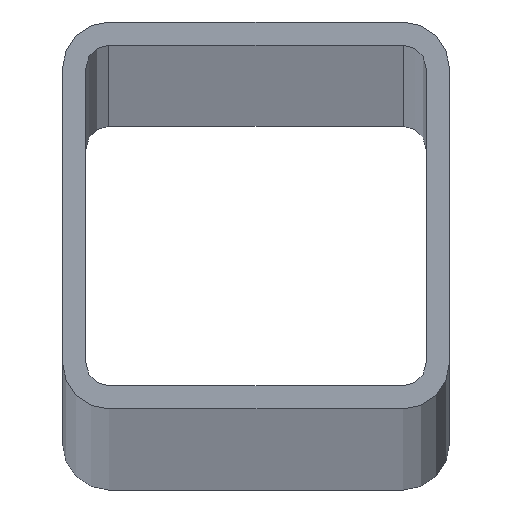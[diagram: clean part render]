
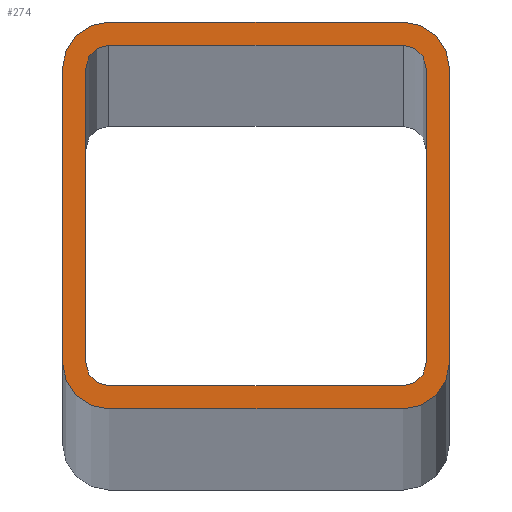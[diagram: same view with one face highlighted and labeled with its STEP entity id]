
A CAD part, top view. The second image highlights one B-rep face of the part: STEP entity #274.
In plain terms, the highlighted planar face has unit normal (0, 0, 1).
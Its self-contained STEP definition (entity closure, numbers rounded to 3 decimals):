
#4 = CIRCLE ( 'NONE', #85, 1.5 ) ;
#7 = DIRECTION ( 'NONE',  ( -1., 0., 0. ) ) ;
#17 = EDGE_CURVE ( 'NONE', #473, #395, #319, .T. ) ;
#18 = CARTESIAN_POINT ( 'NONE',  ( -9.5, 11., 3000. ) ) ;
#22 = VERTEX_POINT ( 'NONE', #265 ) ;
#24 = ORIENTED_EDGE ( 'NONE', *, *, #216, .T. ) ;
#25 = AXIS2_PLACEMENT_3D ( 'NONE', #158, #429, #580 ) ;
#28 = EDGE_CURVE ( 'NONE', #440, #295, #496, .T. ) ;
#29 = CARTESIAN_POINT ( 'NONE',  ( 9.5, -12.5, 3000. ) ) ;
#41 = CARTESIAN_POINT ( 'NONE',  ( 9.5, -9.5, 3000. ) ) ;
#53 = DIRECTION ( 'NONE',  ( 1., 0., 0. ) ) ;
#54 = EDGE_CURVE ( 'NONE', #581, #104, #547, .T. ) ;
#62 = CARTESIAN_POINT ( 'NONE',  ( -9.5, -9.5, 3000. ) ) ;
#63 = VERTEX_POINT ( 'NONE', #277 ) ;
#65 = LINE ( 'NONE', #69, #309 ) ;
#66 = ORIENTED_EDGE ( 'NONE', *, *, #28, .F. ) ;
#67 = AXIS2_PLACEMENT_3D ( 'NONE', #610, #241, #414 ) ;
#69 = CARTESIAN_POINT ( 'NONE',  ( 12.5, -11., 3000. ) ) ;
#74 = CARTESIAN_POINT ( 'NONE',  ( -12.5, -9.5, 3000. ) ) ;
#76 = VERTEX_POINT ( 'NONE', #29 ) ;
#79 = ORIENTED_EDGE ( 'NONE', *, *, #291, .T. ) ;
#85 = AXIS2_PLACEMENT_3D ( 'NONE', #114, #208, #212 ) ;
#96 = VECTOR ( 'NONE', #7, 1000. ) ;
#103 = DIRECTION ( 'NONE',  ( 0., 1., 0. ) ) ;
#104 = VERTEX_POINT ( 'NONE', #275 ) ;
#111 = VERTEX_POINT ( 'NONE', #601 ) ;
#114 = CARTESIAN_POINT ( 'NONE',  ( 9.5, -9.5, 3000. ) ) ;
#115 = ORIENTED_EDGE ( 'NONE', *, *, #54, .T. ) ;
#120 = DIRECTION ( 'NONE',  ( 1., 0., 0. ) ) ;
#135 = CIRCLE ( 'NONE', #374, 3. ) ;
#138 = DIRECTION ( 'NONE',  ( 1., 0., 0. ) ) ;
#141 = LINE ( 'NONE', #521, #592 ) ;
#142 = ORIENTED_EDGE ( 'NONE', *, *, #359, .F. ) ;
#146 = LINE ( 'NONE', #471, #282 ) ;
#153 = ORIENTED_EDGE ( 'NONE', *, *, #165, .T. ) ;
#154 = DIRECTION ( 'NONE',  ( 1., 0., 0. ) ) ;
#156 = ORIENTED_EDGE ( 'NONE', *, *, #584, .T. ) ;
#158 = CARTESIAN_POINT ( 'NONE',  ( 12.5, 12.5, 3000. ) ) ;
#160 = DIRECTION ( 'NONE',  ( 0., 0., -1. ) ) ;
#163 = CARTESIAN_POINT ( 'NONE',  ( 11., 9.5, 3000. ) ) ;
#165 = EDGE_CURVE ( 'NONE', #430, #438, #141, .T. ) ;
#171 = CARTESIAN_POINT ( 'NONE',  ( -9.5, 12.5, 3000. ) ) ;
#173 = CARTESIAN_POINT ( 'NONE',  ( -9.5, 9.5, 3000. ) ) ;
#179 = DIRECTION ( 'NONE',  ( 0., 1., 0. ) ) ;
#190 = CARTESIAN_POINT ( 'NONE',  ( -12.5, -12.5, 3000. ) ) ;
#194 = AXIS2_PLACEMENT_3D ( 'NONE', #290, #160, #428 ) ;
#195 = ORIENTED_EDGE ( 'NONE', *, *, #353, .F. ) ;
#205 = AXIS2_PLACEMENT_3D ( 'NONE', #448, #315, #358 ) ;
#206 = DIRECTION ( 'NONE',  ( 0., 0., 1. ) ) ;
#208 = DIRECTION ( 'NONE',  ( 0., 0., -1. ) ) ;
#212 = DIRECTION ( 'NONE',  ( 1., 0., 0. ) ) ;
#216 = EDGE_CURVE ( 'NONE', #76, #430, #544, .T. ) ;
#217 = CARTESIAN_POINT ( 'NONE',  ( 11., -9.5, 3000. ) ) ;
#221 = AXIS2_PLACEMENT_3D ( 'NONE', #41, #574, #154 ) ;
#239 = FACE_BOUND ( 'NONE', #573, .T. ) ;
#241 = DIRECTION ( 'NONE',  ( 0., 0., 1. ) ) ;
#247 = EDGE_CURVE ( 'NONE', #111, #452, #618, .T. ) ;
#252 = EDGE_CURVE ( 'NONE', #438, #63, #327, .T. ) ;
#263 = VECTOR ( 'NONE', #179, 1000. ) ;
#265 = CARTESIAN_POINT ( 'NONE',  ( -9.5, -12.5, 3000. ) ) ;
#270 = VECTOR ( 'NONE', #383, 1000. ) ;
#274 = ADVANCED_FACE ( 'NONE', ( #286, #239 ), #421, .T. ) ;
#275 = CARTESIAN_POINT ( 'NONE',  ( -11., -9.5, 3000. ) ) ;
#277 = CARTESIAN_POINT ( 'NONE',  ( 9.5, 12.5, 3000. ) ) ;
#280 = ORIENTED_EDGE ( 'NONE', *, *, #252, .T. ) ;
#282 = VECTOR ( 'NONE', #53, 1000. ) ;
#286 = FACE_OUTER_BOUND ( 'NONE', #350, .T. ) ;
#287 = ORIENTED_EDGE ( 'NONE', *, *, #385, .T. ) ;
#290 = CARTESIAN_POINT ( 'NONE',  ( 9.5, 9.5, 3000. ) ) ;
#291 = EDGE_CURVE ( 'NONE', #444, #111, #135, .T. ) ;
#295 = VERTEX_POINT ( 'NONE', #163 ) ;
#297 = LINE ( 'NONE', #482, #535 ) ;
#298 = ORIENTED_EDGE ( 'NONE', *, *, #17, .T. ) ;
#303 = DIRECTION ( 'NONE',  ( -1., 0., 0. ) ) ;
#306 = CARTESIAN_POINT ( 'NONE',  ( 12.5, -9.5, 3000. ) ) ;
#309 = VECTOR ( 'NONE', #436, 1000. ) ;
#310 = CARTESIAN_POINT ( 'NONE',  ( -11., 9.5, 3000. ) ) ;
#315 = DIRECTION ( 'NONE',  ( 0., 0., -1. ) ) ;
#319 = CIRCLE ( 'NONE', #602, 1.5 ) ;
#327 = CIRCLE ( 'NONE', #67, 3. ) ;
#343 = DIRECTION ( 'NONE',  ( 0., 0., 1. ) ) ;
#350 = EDGE_LOOP ( 'NONE', ( #392, #575, #533, #24, #153, #280, #156, #79 ) ) ;
#351 = CARTESIAN_POINT ( 'NONE',  ( -11., 12.5, 3000. ) ) ;
#353 = EDGE_CURVE ( 'NONE', #365, #395, #297, .T. ) ;
#358 = DIRECTION ( 'NONE',  ( 1., 0., 0. ) ) ;
#359 = EDGE_CURVE ( 'NONE', #473, #104, #484, .T. ) ;
#365 = VERTEX_POINT ( 'NONE', #489 ) ;
#372 = DIRECTION ( 'NONE',  ( 0., -1., 0. ) ) ;
#374 = AXIS2_PLACEMENT_3D ( 'NONE', #588, #343, #120 ) ;
#378 = EDGE_CURVE ( 'NONE', #581, #518, #65, .T. ) ;
#383 = DIRECTION ( 'NONE',  ( 0., -1., 0. ) ) ;
#385 = EDGE_CURVE ( 'NONE', #440, #518, #4, .T. ) ;
#387 = AXIS2_PLACEMENT_3D ( 'NONE', #62, #206, #583 ) ;
#392 = ORIENTED_EDGE ( 'NONE', *, *, #247, .T. ) ;
#395 = VERTEX_POINT ( 'NONE', #18 ) ;
#396 = EDGE_CURVE ( 'NONE', #452, #22, #437, .T. ) ;
#397 = CARTESIAN_POINT ( 'NONE',  ( 12.5, 9.5, 3000. ) ) ;
#413 = CARTESIAN_POINT ( 'NONE',  ( 9.5, -11., 3000. ) ) ;
#414 = DIRECTION ( 'NONE',  ( 1., 0., 0. ) ) ;
#416 = CARTESIAN_POINT ( 'NONE',  ( -9.5, -11., 3000. ) ) ;
#419 = LINE ( 'NONE', #456, #96 ) ;
#421 = PLANE ( 'NONE',  #25 ) ;
#428 = DIRECTION ( 'NONE',  ( 1., 0., 0. ) ) ;
#429 = DIRECTION ( 'NONE',  ( 0., 0., 1. ) ) ;
#430 = VERTEX_POINT ( 'NONE', #306 ) ;
#436 = DIRECTION ( 'NONE',  ( 1., 0., 0. ) ) ;
#437 = CIRCLE ( 'NONE', #387, 3. ) ;
#438 = VERTEX_POINT ( 'NONE', #397 ) ;
#440 = VERTEX_POINT ( 'NONE', #217 ) ;
#444 = VERTEX_POINT ( 'NONE', #171 ) ;
#446 = ORIENTED_EDGE ( 'NONE', *, *, #378, .F. ) ;
#448 = CARTESIAN_POINT ( 'NONE',  ( -9.5, -9.5, 3000. ) ) ;
#452 = VERTEX_POINT ( 'NONE', #74 ) ;
#453 = CIRCLE ( 'NONE', #194, 1.5 ) ;
#456 = CARTESIAN_POINT ( 'NONE',  ( -12.5, 12.5, 3000. ) ) ;
#471 = CARTESIAN_POINT ( 'NONE',  ( -12.5, -12.5, 3000. ) ) ;
#473 = VERTEX_POINT ( 'NONE', #310 ) ;
#482 = CARTESIAN_POINT ( 'NONE',  ( 12.5, 11., 3000. ) ) ;
#484 = LINE ( 'NONE', #351, #270 ) ;
#489 = CARTESIAN_POINT ( 'NONE',  ( 9.5, 11., 3000. ) ) ;
#496 = LINE ( 'NONE', #556, #263 ) ;
#501 = ORIENTED_EDGE ( 'NONE', *, *, #613, .T. ) ;
#505 = DIRECTION ( 'NONE',  ( 0., 0., -1. ) ) ;
#515 = VECTOR ( 'NONE', #372, 1000. ) ;
#518 = VERTEX_POINT ( 'NONE', #413 ) ;
#521 = CARTESIAN_POINT ( 'NONE',  ( 12.5, -12.5, 3000. ) ) ;
#533 = ORIENTED_EDGE ( 'NONE', *, *, #534, .T. ) ;
#534 = EDGE_CURVE ( 'NONE', #22, #76, #146, .T. ) ;
#535 = VECTOR ( 'NONE', #303, 1000. ) ;
#544 = CIRCLE ( 'NONE', #221, 3. ) ;
#547 = CIRCLE ( 'NONE', #205, 1.5 ) ;
#556 = CARTESIAN_POINT ( 'NONE',  ( 11., 12.5, 3000. ) ) ;
#573 = EDGE_LOOP ( 'NONE', ( #195, #501, #66, #287, #446, #115, #142, #298 ) ) ;
#574 = DIRECTION ( 'NONE',  ( 0., 0., 1. ) ) ;
#575 = ORIENTED_EDGE ( 'NONE', *, *, #396, .T. ) ;
#580 = DIRECTION ( 'NONE',  ( 1., 0., 0. ) ) ;
#581 = VERTEX_POINT ( 'NONE', #416 ) ;
#583 = DIRECTION ( 'NONE',  ( 1., 0., 0. ) ) ;
#584 = EDGE_CURVE ( 'NONE', #63, #444, #419, .T. ) ;
#588 = CARTESIAN_POINT ( 'NONE',  ( -9.5, 9.5, 3000. ) ) ;
#592 = VECTOR ( 'NONE', #103, 1000. ) ;
#601 = CARTESIAN_POINT ( 'NONE',  ( -12.5, 9.5, 3000. ) ) ;
#602 = AXIS2_PLACEMENT_3D ( 'NONE', #173, #505, #138 ) ;
#610 = CARTESIAN_POINT ( 'NONE',  ( 9.5, 9.5, 3000. ) ) ;
#613 = EDGE_CURVE ( 'NONE', #365, #295, #453, .T. ) ;
#618 = LINE ( 'NONE', #190, #515 ) ;
